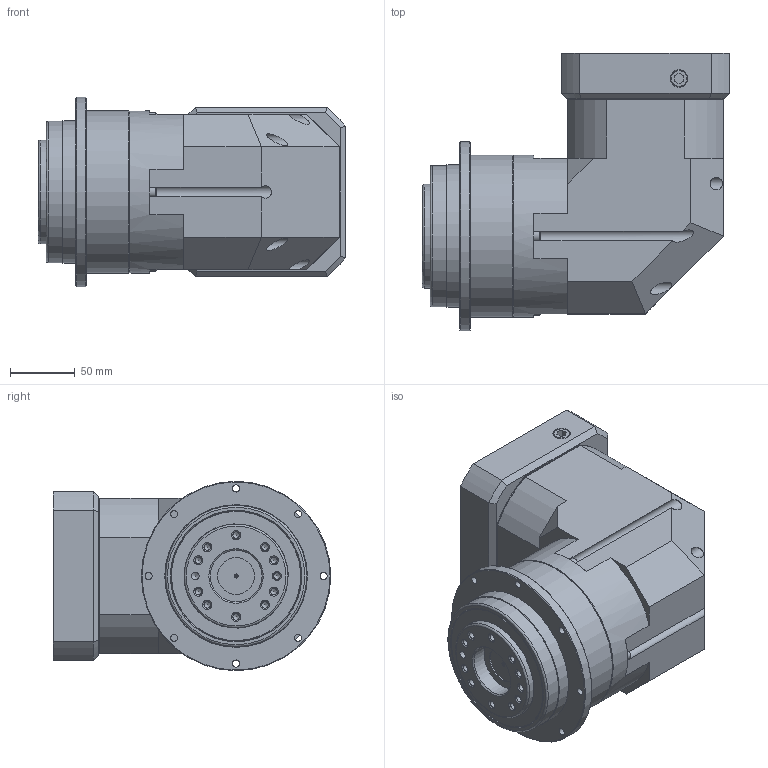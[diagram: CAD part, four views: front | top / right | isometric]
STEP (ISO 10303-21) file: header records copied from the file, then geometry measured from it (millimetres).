
FILE_DESCRIPTION((''),'2;1');
FILE_NAME('C:\Work\감속기 카다로그 도면\ATG Reducer(홈페이지)\KSDL\KSDL-110-1.stp','2014-07-09T14:32:36',('young'),(''),'Autodesk Inventor 2012','Autodesk Inventor 2012','');
FILE_SCHEMA(('AUTOMOTIVE_DESIGN { 1 0 10303 214 1 1 1 1 }'));
Length unit declared in the file: millimetre
Products named in the file (4): KSDL-110-1; 110-BK(HF-SP102); BS 4168 : 부품 1 6각 소켓 머리 캡 나사 - 미터 M8 x 30
Assembly tree (6 placements, depth 2):
  KSDL-110-1
    KSDL-110-1
    110-BK(HF-SP102)
    BS 4168 : 부품 1 6각 소켓 머리 캡 나사 - 미터 M8 x 30  x4
Bounding box: 237 x 214 x 146 mm (x, y, z)
Volume: 2525967.4 mm3; surface area: 431011.1 mm2
Topology: 27 solids, 28 shells, 1641 faces, 4423 edges, 2910 vertices
Faces by surface type: bspline 460, plane 412, cone 380, cylinder 351, torus 36, sphere 2
Full cylindrical faces by diameter (mm): 2 x1, 3.3 x8, 4.2 x1, 5 x26, 5.5 x8, 6 x8, 6.8 x8, 7 x3, 7.96 x6, 8 x9, 8.5 x15, 9 x1, 9.5 x4, 11.125 x2, 13 x7, 22 x1, 23.55 x1, 24 x1, 25 x2, 26 x1, 28.326 x1, 38.4 x1, 39.8 x1, 40 x2, 42 x1, 55 x3, 58 x1, 68 x1, 69 x1, 72 x1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
Entity records: 67179 total; most frequent: CARTESIAN_POINT 31727, ORIENTED_EDGE 7866, DIRECTION 6915, EDGE_CURVE 3933, AXIS2_PLACEMENT_3D 3136, VERTEX_POINT 2763, EDGE_LOOP 2008, CIRCLE 1992
